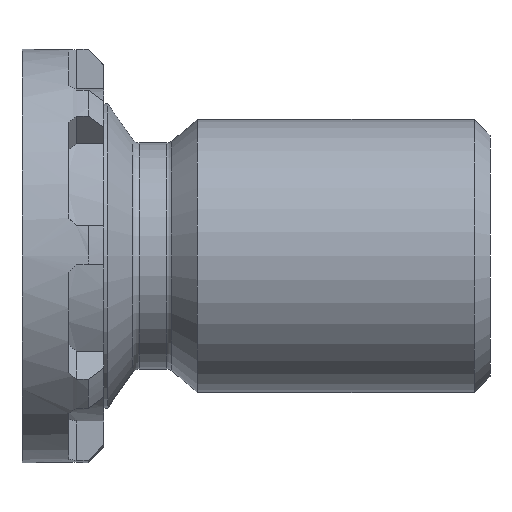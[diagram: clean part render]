
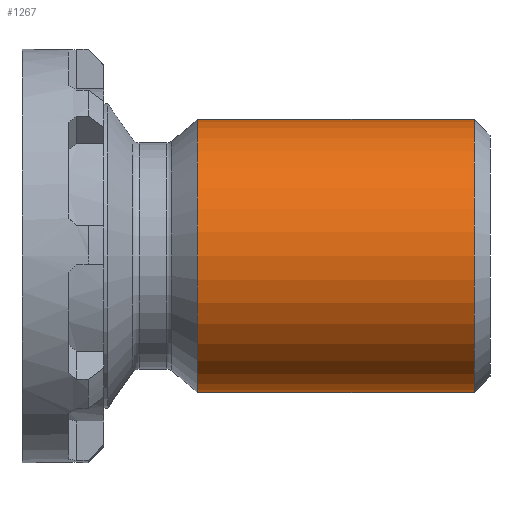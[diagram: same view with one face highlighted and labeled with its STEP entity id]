
A CAD part, left-side view. The second image highlights one B-rep face of the part: STEP entity #1267.
In plain terms, the highlighted cylindrical face has radius 1.75 mm (diameter 3.5 mm), a full revolution.
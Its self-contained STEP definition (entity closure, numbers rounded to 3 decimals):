
#38=CYLINDRICAL_SURFACE('',#1435,1.75);
#100=CIRCLE('',#1432,1.75);
#101=CIRCLE('',#1433,1.75);
#102=CIRCLE('',#1436,1.75);
#174=FACE_OUTER_BOUND('',#242,.T.);
#242=EDGE_LOOP('',(#1094,#1095,#1096,#1097,#1098));
#334=LINE('',#2248,#421);
#421=VECTOR('',#1815,1.75);
#573=VERTEX_POINT('',#2240);
#574=VERTEX_POINT('',#2242);
#575=VERTEX_POINT('',#2247);
#759=EDGE_CURVE('',#573,#574,#100,.T.);
#760=EDGE_CURVE('',#574,#573,#101,.T.);
#761=EDGE_CURVE('',#574,#575,#334,.T.);
#762=EDGE_CURVE('',#575,#575,#102,.T.);
#1094=ORIENTED_EDGE('',*,*,#759,.F.);
#1095=ORIENTED_EDGE('',*,*,#760,.F.);
#1096=ORIENTED_EDGE('',*,*,#761,.T.);
#1097=ORIENTED_EDGE('',*,*,#762,.T.);
#1098=ORIENTED_EDGE('',*,*,#761,.F.);
#1267=ADVANCED_FACE('',(#174),#38,.T.);
#1432=AXIS2_PLACEMENT_3D('',#2243,#1807,#1808);
#1433=AXIS2_PLACEMENT_3D('',#2244,#1809,#1810);
#1435=AXIS2_PLACEMENT_3D('',#2246,#1813,#1814);
#1436=AXIS2_PLACEMENT_3D('',#2249,#1816,#1817);
#1807=DIRECTION('center_axis',(0.,-1.,0.));
#1808=DIRECTION('ref_axis',(-1.,0.,0.));
#1809=DIRECTION('center_axis',(0.,-1.,0.));
#1810=DIRECTION('ref_axis',(-1.,0.,0.));
#1813=DIRECTION('center_axis',(0.,-1.,0.));
#1814=DIRECTION('ref_axis',(1.,0.,0.));
#1815=DIRECTION('',(0.,1.,0.));
#1816=DIRECTION('center_axis',(0.,-1.,0.));
#1817=DIRECTION('ref_axis',(1.,0.,0.));
#2240=CARTESIAN_POINT('',(1.75,0.2,0.));
#2242=CARTESIAN_POINT('',(-1.75,0.2,0.));
#2243=CARTESIAN_POINT('Origin',(0.,0.2,0.));
#2244=CARTESIAN_POINT('Origin',(0.,0.2,0.));
#2246=CARTESIAN_POINT('Origin',(0.,1.875,0.));
#2247=CARTESIAN_POINT('',(-1.75,3.75,0.));
#2248=CARTESIAN_POINT('',(-1.75,1.875,0.));
#2249=CARTESIAN_POINT('Origin',(0.,3.75,0.));
